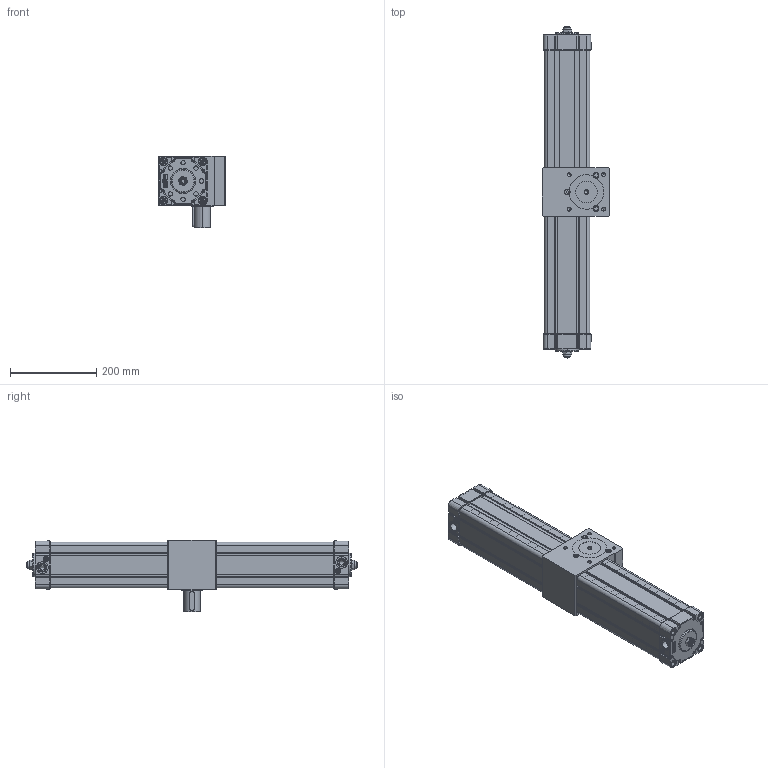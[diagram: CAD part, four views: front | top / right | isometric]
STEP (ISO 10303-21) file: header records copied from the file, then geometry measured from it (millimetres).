
FILE_DESCRIPTION (( 'STEP AP214' ), '1' );
FILE_NAME ('ARM360-100.STEP', '2021-06-07T13:30:07', ( '' ), ( '' ), 'SwSTEP 2.0', 'SolidWorks 2016', '' );
FILE_SCHEMA (( 'AUTOMOTIVE_DESIGN' ));
Length unit declared in the file: millimetre
Products named in the file (1): ARM360-100
Bounding box: 156.5 x 772 x 166.1 mm (x, y, z)
Volume: 3604170.1 mm3; surface area: 1202416.8 mm2
Topology: 41 solids, 41 shells, 4191 faces, 10627 edges, 6458 vertices
Faces by surface type: cylinder 1610, plane 1373, cone 522, torus 324, bspline 296, sphere 66
Entity records: 185774 total; most frequent: CARTESIAN_POINT 40000, DIRECTION 21043, ORIENTED_EDGE 20766, EDGE_CURVE 10383, AXIS2_PLACEMENT_3D 8027, VERTEX_POINT 6458, LINE 4989, VECTOR 4989
